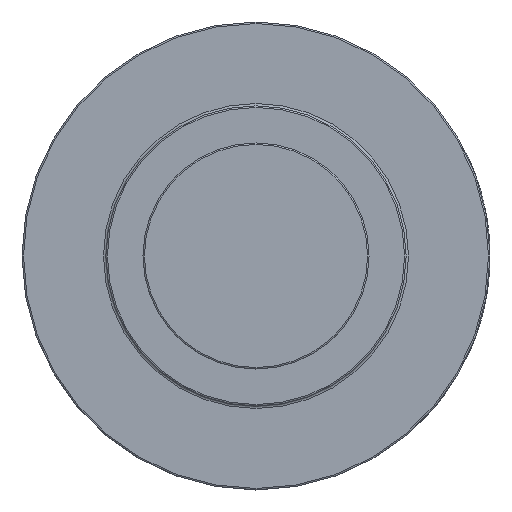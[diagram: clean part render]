
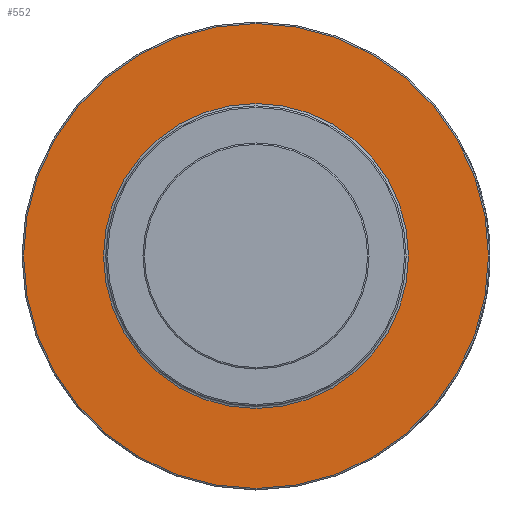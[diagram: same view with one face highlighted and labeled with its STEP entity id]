
A CAD part, left-side view. The second image highlights one B-rep face of the part: STEP entity #552.
In plain terms, the highlighted planar face has unit normal (-1, 0, 0).
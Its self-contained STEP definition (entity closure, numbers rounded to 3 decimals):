
#552 = ADVANCED_FACE( '', ( #1197, #1198 ), #1199, .F. );
#1197 = FACE_BOUND( '', #2959, .T. );
#1198 = FACE_OUTER_BOUND( '', #2960, .T. );
#1199 = PLANE( '', #2961 );
#2959 = EDGE_LOOP( '', ( #4626 ) );
#2960 = EDGE_LOOP( '', ( #4627 ) );
#2961 = AXIS2_PLACEMENT_3D( '', #4628, #4629, #4630 );
#4626 = ORIENTED_EDGE( '', *, *, #5649, .F. );
#4627 = ORIENTED_EDGE( '', *, *, #5725, .T. );
#4628 = CARTESIAN_POINT( '', ( 49.879, 0., 51.2 ) );
#4629 = DIRECTION( '', ( 1., 0., 0. ) );
#4630 = DIRECTION( '', ( 0., 0., -1. ) );
#5649 = EDGE_CURVE( '', #6741, #6741, #6742, .T. );
#5725 = EDGE_CURVE( '', #6827, #6827, #6828, .T. );
#6741 = VERTEX_POINT( '', #9278 );
#6742 = CIRCLE( '', #9279, 51.2 );
#6827 = VERTEX_POINT( '', #9434 );
#6828 = CIRCLE( '', #9435, 78.08 );
#9278 = CARTESIAN_POINT( '', ( 49.879, 0., 51.2 ) );
#9279 = AXIS2_PLACEMENT_3D( '', #9639, #9640, #9641 );
#9434 = CARTESIAN_POINT( '', ( 49.879, 0., 78.08 ) );
#9435 = AXIS2_PLACEMENT_3D( '', #9645, #9646, #9647 );
#9639 = CARTESIAN_POINT( '', ( 49.879, 0., 0. ) );
#9640 = DIRECTION( '', ( -1., 0., 0. ) );
#9641 = DIRECTION( '', ( 0., 0., 1. ) );
#9645 = CARTESIAN_POINT( '', ( 49.879, 0., 0. ) );
#9646 = DIRECTION( '', ( -1., 0., 0. ) );
#9647 = DIRECTION( '', ( 0., 0., 1. ) );
